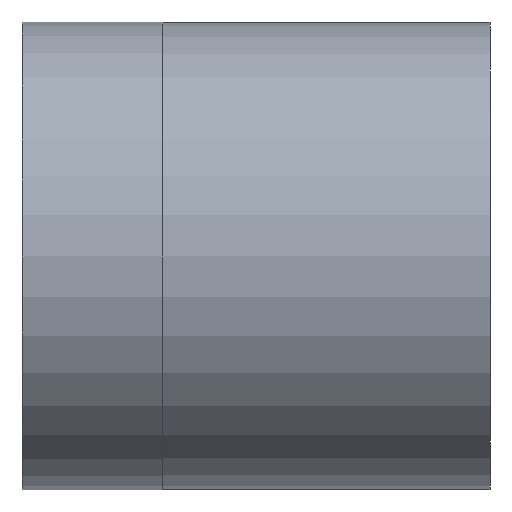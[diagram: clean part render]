
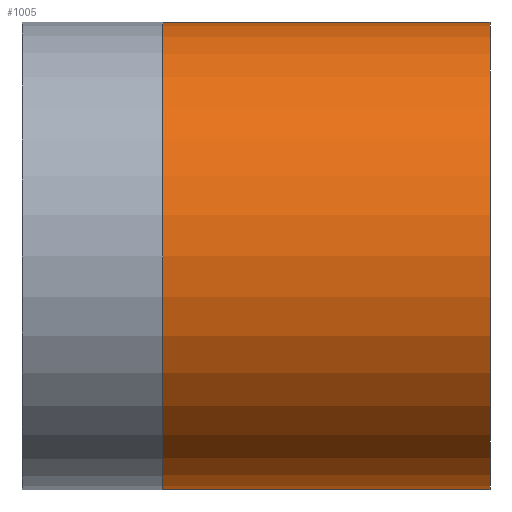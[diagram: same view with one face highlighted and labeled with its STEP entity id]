
A CAD part, left-side view. The second image highlights one B-rep face of the part: STEP entity #1005.
In plain terms, the highlighted cylindrical face has radius 9.98 mm (diameter 19.96 mm), a partial arc.
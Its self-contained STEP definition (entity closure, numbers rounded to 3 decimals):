
#79 = DIRECTION ( 'NONE',  ( 0., 0., -1. ) ) ;
#80 = DIRECTION ( 'NONE',  ( 0., -1., 0. ) ) ;
#81 = CARTESIAN_POINT ( 'NONE',  ( 0., -20.255, 0. ) ) ;
#82 = AXIS2_PLACEMENT_3D ( 'NONE', #81, #80, #79 ) ;
#83 = CYLINDRICAL_SURFACE ( 'NONE', #82, 9.98 ) ;
#84 = FACE_OUTER_BOUND ( 'NONE', #993, .T. ) ;
#104 = DIRECTION ( 'NONE',  ( 0., 0., -1. ) ) ;
#105 = DIRECTION ( 'NONE',  ( 0., -1., 0. ) ) ;
#106 = CARTESIAN_POINT ( 'NONE',  ( 0., 0., 0. ) ) ;
#107 = AXIS2_PLACEMENT_3D ( 'NONE', #106, #105, #104 ) ;
#108 = CIRCLE ( 'NONE', #107, 9.98 ) ;
#117 = CARTESIAN_POINT ( 'NONE',  ( 0., 13.98, 9.98 ) ) ;
#129 = CARTESIAN_POINT ( 'NONE',  ( 0., 0., 9.98 ) ) ;
#131 = DIRECTION ( 'NONE',  ( 0., -1., 0. ) ) ;
#132 = VECTOR ( 'NONE', #131, 1000. ) ;
#133 = CARTESIAN_POINT ( 'NONE',  ( 0., -20.255, -9.98 ) ) ;
#134 = LINE ( 'NONE', #133, #132 ) ;
#135 = DIRECTION ( 'NONE',  ( 0., 0., -1. ) ) ;
#136 = DIRECTION ( 'NONE',  ( 0., -1., 0. ) ) ;
#137 = AXIS2_PLACEMENT_3D ( 'NONE', #143, #136, #135 ) ;
#138 = CIRCLE ( 'NONE', #137, 9.98 ) ;
#143 = CARTESIAN_POINT ( 'NONE',  ( 0., 13.98, 0. ) ) ;
#173 = CARTESIAN_POINT ( 'NONE',  ( 0., 13.98, -9.98 ) ) ;
#400 = DIRECTION ( 'NONE',  ( 0., -1., 0. ) ) ;
#401 = VECTOR ( 'NONE', #400, 1000. ) ;
#402 = CARTESIAN_POINT ( 'NONE',  ( 0., -20.255, 9.98 ) ) ;
#403 = LINE ( 'NONE', #402, #401 ) ;
#410 = CARTESIAN_POINT ( 'NONE',  ( 0., 0., -9.98 ) ) ;
#993 = EDGE_LOOP ( 'NONE', ( #1011, #1009, #1008, #1188 ) ) ;
#994 = EDGE_CURVE ( 'NONE', #1015, #1078, #108, .T. ) ;
#1005 = ADVANCED_FACE ( 'NONE', ( #84 ), #83, .T. ) ;
#1008 = ORIENTED_EDGE ( 'NONE', *, *, #1013, .T. ) ;
#1009 = ORIENTED_EDGE ( 'NONE', *, *, #1010, .T. ) ;
#1010 = EDGE_CURVE ( 'NONE', #1023, #1053, #138, .T. ) ;
#1011 = ORIENTED_EDGE ( 'NONE', *, *, #1081, .F. ) ;
#1013 = EDGE_CURVE ( 'NONE', #1053, #1078, #134, .T. ) ;
#1015 = VERTEX_POINT ( 'NONE', #129 ) ;
#1023 = VERTEX_POINT ( 'NONE', #117 ) ;
#1053 = VERTEX_POINT ( 'NONE', #173 ) ;
#1078 = VERTEX_POINT ( 'NONE', #410 ) ;
#1081 = EDGE_CURVE ( 'NONE', #1023, #1015, #403, .T. ) ;
#1188 = ORIENTED_EDGE ( 'NONE', *, *, #994, .F. ) ;
